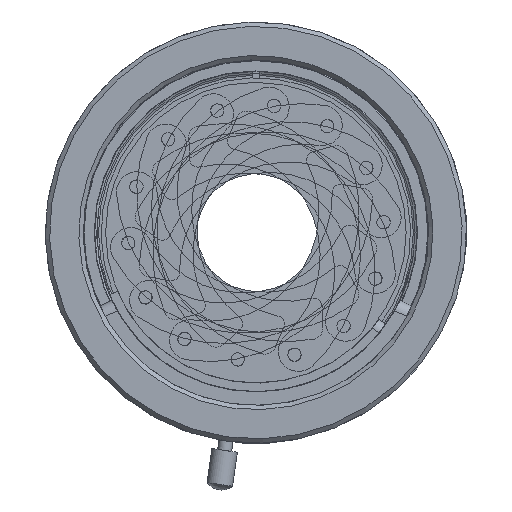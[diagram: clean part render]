
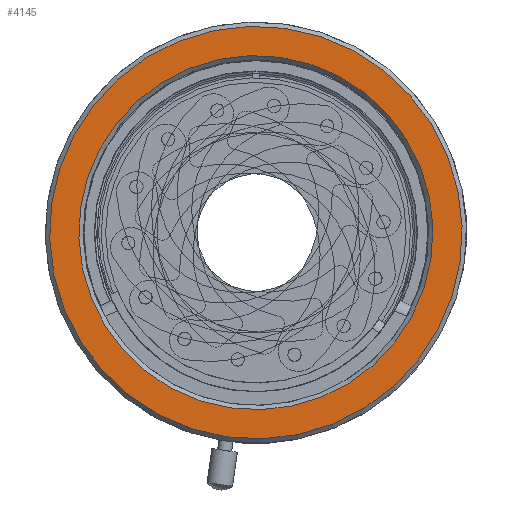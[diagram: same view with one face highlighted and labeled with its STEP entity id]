
A CAD part, left-side view. The second image highlights one B-rep face of the part: STEP entity #4145.
In plain terms, the highlighted planar face has unit normal (-1, 0, 0).
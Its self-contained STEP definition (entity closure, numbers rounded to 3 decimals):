
#232 = EDGE_CURVE ( 'NONE', #1730, #1730, #6099, .T. ) ;
#441 = ORIENTED_EDGE ( 'NONE', *, *, #6221, .T. ) ;
#726 = AXIS2_PLACEMENT_3D ( 'NONE', #3545, #5667, #867 ) ;
#867 = DIRECTION ( 'NONE',  ( 0., 0.999, -0.033 ) ) ;
#1369 = CARTESIAN_POINT ( 'NONE',  ( -0.85, 0., 0. ) ) ;
#1730 = VERTEX_POINT ( 'NONE', #5046 ) ;
#2082 = CARTESIAN_POINT ( 'NONE',  ( -0.85, 23.987, -0.784 ) ) ;
#2317 = CARTESIAN_POINT ( 'NONE',  ( -0.85, 0., 0. ) ) ;
#2674 = VERTEX_POINT ( 'NONE', #2082 ) ;
#2880 = DIRECTION ( 'NONE',  ( -1., 0., 0. ) ) ;
#3408 = CIRCLE ( 'NONE', #3515, 24. ) ;
#3515 = AXIS2_PLACEMENT_3D ( 'NONE', #2317, #2880, #4024 ) ;
#3545 = CARTESIAN_POINT ( 'NONE',  ( -0.85, 0., 0. ) ) ;
#4024 = DIRECTION ( 'NONE',  ( 0., 0.999, -0.033 ) ) ;
#4145 = ADVANCED_FACE ( 'NONE', ( #5679, #6706 ), #6677, .F. ) ;
#4405 = AXIS2_PLACEMENT_3D ( 'NONE', #1369, #6144, #5646 ) ;
#5046 = CARTESIAN_POINT ( 'NONE',  ( -0.85, 20.589, -0.673 ) ) ;
#5646 = DIRECTION ( 'NONE',  ( 0., 0.999, -0.033 ) ) ;
#5667 = DIRECTION ( 'NONE',  ( 1., 0., 0. ) ) ;
#5677 = ORIENTED_EDGE ( 'NONE', *, *, #232, .T. ) ;
#5679 = FACE_BOUND ( 'NONE', #5701, .T. ) ;
#5701 = EDGE_LOOP ( 'NONE', ( #5677 ) ) ;
#5919 = EDGE_LOOP ( 'NONE', ( #441 ) ) ;
#6099 = CIRCLE ( 'NONE', #726, 20.6 ) ;
#6144 = DIRECTION ( 'NONE',  ( 1., 0., 0. ) ) ;
#6221 = EDGE_CURVE ( 'NONE', #2674, #2674, #3408, .T. ) ;
#6677 = PLANE ( 'NONE',  #4405 ) ;
#6706 = FACE_OUTER_BOUND ( 'NONE', #5919, .T. ) ;
